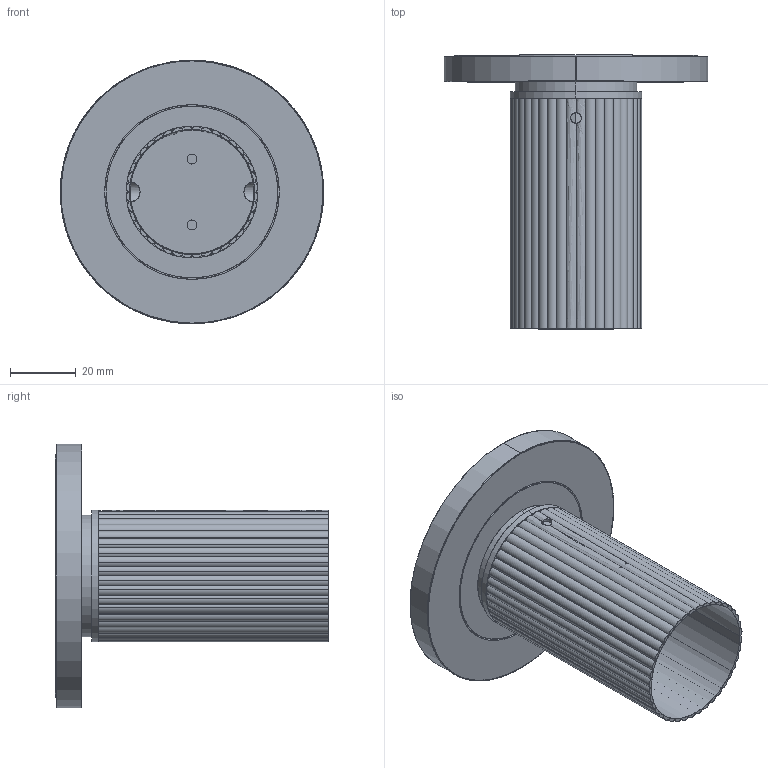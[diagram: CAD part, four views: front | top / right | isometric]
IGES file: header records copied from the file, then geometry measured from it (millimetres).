
Start section: SolidWorks IGES file using analytic representation for surfaces
Global section: file name: S:\PRODOTTI\Beak\Point\3d\BEAK Ceiling-point.IGS; native system: SolidWorks 2020; preprocessor: SolidWorks 2020; author: Grafica; date: 250606.151407; units: millimetre
Bounding box: 80 x 83.1 x 80 mm (x, y, z)
Surface area: 49703.3 mm2 (no closed solid volume)
Topology: 0 solids, 0 shells, 132 faces, 3500 edges, 3500 vertices
Faces by surface type: revolution 106, bspline 26
